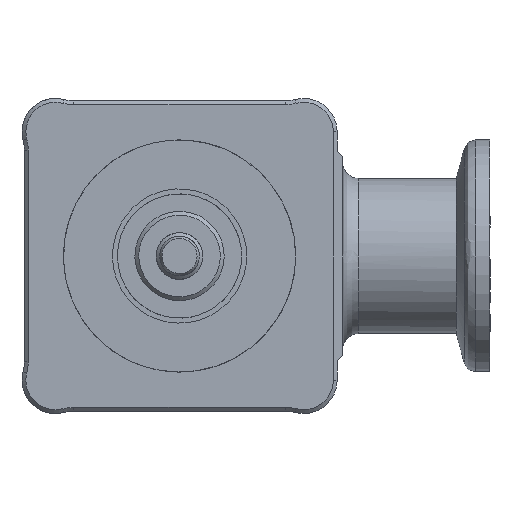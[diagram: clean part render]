
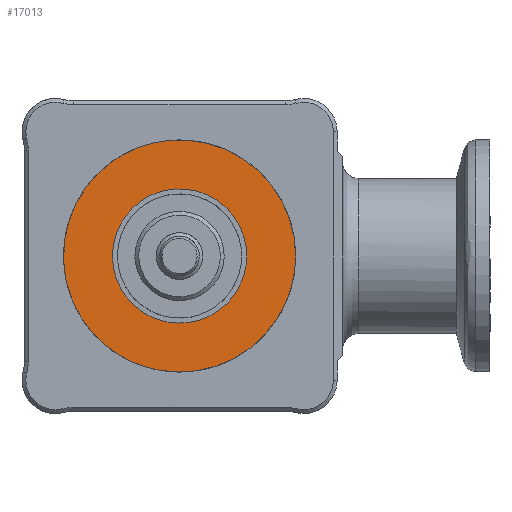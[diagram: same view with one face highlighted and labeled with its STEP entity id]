
A CAD part, front view. The second image highlights one B-rep face of the part: STEP entity #17013.
In plain terms, the highlighted free-form (B-spline) face has degree [1, 1] with [2, 2] control points.
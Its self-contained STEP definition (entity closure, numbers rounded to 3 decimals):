
#16955=CARTESIAN_POINT('V55',(14.956,-3.,
   0.0));
#16956=VERTEX_POINT('V55',#16955);
#16964=CARTESIAN_POINT('E74',(14.956,-3.,
   0.0));
#16965=CARTESIAN_POINT('E74',(14.956,-3.,
   25.905));
#16966=CARTESIAN_POINT('E74',(-7.478,-3.,
   12.952));
#16967=CARTESIAN_POINT('E74',(-29.912,-3.,
   0.));
#16968=CARTESIAN_POINT('E74',(-7.478,-3.,
   -12.952));
#16969=CARTESIAN_POINT('E74',(14.956,-3.,
   -25.905));
#16970=CARTESIAN_POINT('E74',(14.956,-3.,
   0.0));
#16978=(BOUNDED_CURVE()B_SPLINE_CURVE(2,(#16964,#16965,#16966,
   #16967,#16968,#16969,#16970),.CIRCULAR_ARC.,.T.,.U.)
   B_SPLINE_CURVE_WITH_KNOTS((3,2,2,3),(0.0,0.333,
   0.667,1.0),.UNSPECIFIED.)CURVE()
   GEOMETRIC_REPRESENTATION_ITEM()RATIONAL_B_SPLINE_CURVE((1.0,
   0.5,1.0,0.5,1.0,0.5,1.0)
   )REPRESENTATION_ITEM('E74'));
#16979=EDGE_CURVE('E74',#16956,#16956,#16978,.T.);
#16984=CARTESIAN_POINT('F33',(15.956,-3.0,
   -15.956));
#16985=CARTESIAN_POINT('F33',(15.956,-3.0,
   15.956));
#16986=CARTESIAN_POINT('F33',(-21.807,-3.0,
   -15.956));
#16987=CARTESIAN_POINT('F33',(-21.807,-3.0,
   15.956));
#16988=B_SPLINE_SURFACE_WITH_KNOTS('F33',1,1,((#16984,#16986),(
   #16985,#16987)),.PLANE_SURF.,.F.,.F.,.U.,(2,2),(2,2),(
   0.126,0.874),(0.599,
   1.485),.UNSPECIFIED.);
#16989=ORIENTED_EDGE('F29',*,*,#16979,.F.);
#16990=EDGE_LOOP('F33',(#16989));
#16991=FACE_OUTER_BOUND('F33',#16990,.F.);
#16992=CARTESIAN_POINT('V58',(8.65,-3.,
   0.0));
#16993=VERTEX_POINT('V58',#16992);
#16994=CARTESIAN_POINT('E79',(8.65,-3.,
   0.0));
#16995=CARTESIAN_POINT('E79',(8.65,-3.,
   -14.982));
#16996=CARTESIAN_POINT('E79',(-4.325,-3.,
   -7.491));
#16997=CARTESIAN_POINT('E79',(-17.3,-3.,
   0.));
#16998=CARTESIAN_POINT('E79',(-4.325,-3.,
   7.491));
#16999=CARTESIAN_POINT('E79',(8.65,-3.,
   14.982));
#17000=CARTESIAN_POINT('E79',(8.65,-3.,
   0.0));
#17008=(BOUNDED_CURVE()B_SPLINE_CURVE(2,(#16994,#16995,#16996,
   #16997,#16998,#16999,#17000),.CIRCULAR_ARC.,.T.,.U.)
   B_SPLINE_CURVE_WITH_KNOTS((3,2,2,3),(0.0,0.333,
   0.667,1.0),.UNSPECIFIED.)CURVE()
   GEOMETRIC_REPRESENTATION_ITEM()RATIONAL_B_SPLINE_CURVE((1.0,
   0.5,1.0,0.5,1.0,0.5,1.0)
   )REPRESENTATION_ITEM('E79'));
#17009=EDGE_CURVE('E79',#16993,#16993,#17008,.T.);
#17010=ORIENTED_EDGE('E79',*,*,#17009,.F.);
#17011=EDGE_LOOP('F33',(#17010));
#17012=FACE_BOUND('F33',#17011,.F.);
#17013=ADVANCED_FACE('F33',(#16991,#17012),#16988,.T.);
